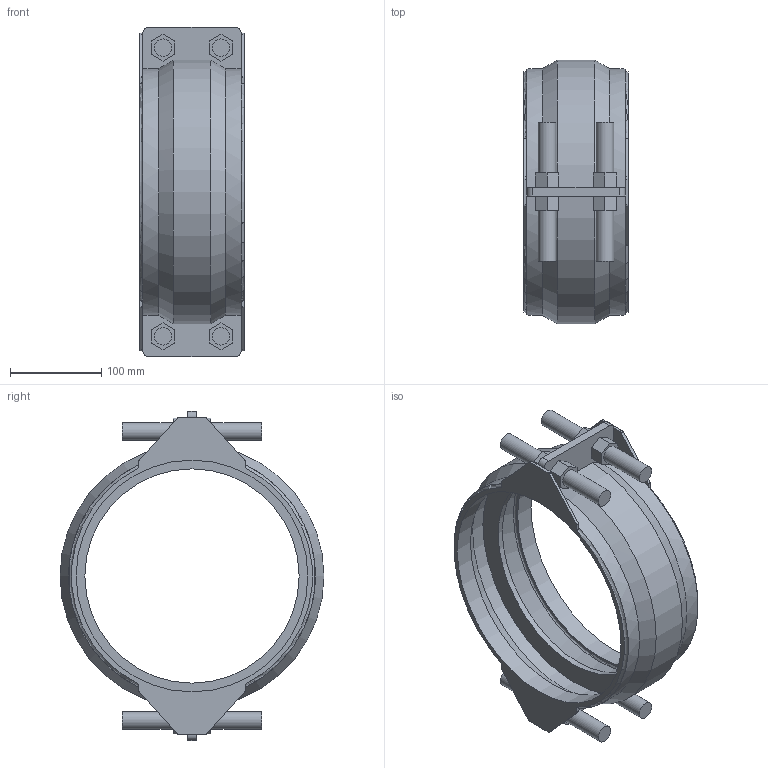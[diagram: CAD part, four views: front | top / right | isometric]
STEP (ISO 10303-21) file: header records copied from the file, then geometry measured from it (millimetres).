
FILE_DESCRIPTION(/* description */ ('VIC SS RESTRAINED COUPLING STYLE 234S (FLEX) (BRS)','CAx-IF Rec.Pracs.---Representation and Presentation of Product Manufacturing Information (PMI)---4.0---2014-10-13'),/* implementation_level */ '2;1');
FILE_NAME(/* name */ 'C:\Users\kkamble\AppData\Roaming\Autodesk\ApplicationPlugins\Back Up\Victaulic_VBSP_Coupling Flexible Restrained_Style 234S (BRS)\Victaulic_VBSP_Coupling Flexible Restrained_Style 234S (BRS)_200psi_10 (250).stp',/* time_stamp */ '2020-09-22T18:40:36+05:00',/* author */ ('Vjadhav'),/* organization */ ('Victaulic'),/* preprocessor_version */ 'ST-DEVELOPER v17.2',/* originating_system */ 'Autodesk Inventor 2019',/* authorisation */ '');
FILE_SCHEMA (('AP242_MANAGED_MODEL_BASED_3D_ENGINEERING_MIM_LF { 1 0 10303 442 1 1 4 }'));
Length unit declared in the file: inch
Products named in the file (1): Style_234S_Type_2_200psi-10.0
Bounding box: 114.3 x 289.28 x 360.68 mm (x, y, z)
Volume: 959860 mm3; surface area: 339446.5 mm2
Topology: 1 solids, 1 shells, 155 faces, 393 edges, 260 vertices
Faces by surface type: plane 104, cylinder 39, torus 6, cone 6
Full cylindrical faces by diameter (mm): 19.05 x8, 234.95 x1, 254 x2, 282.137 x2
Entity records: 5026 total; most frequent: CARTESIAN_POINT 914, DIRECTION 825, ORIENTED_EDGE 786, EDGE_CURVE 393, AXIS2_PLACEMENT_3D 279, LINE 267, VECTOR 267, VERTEX_POINT 260
